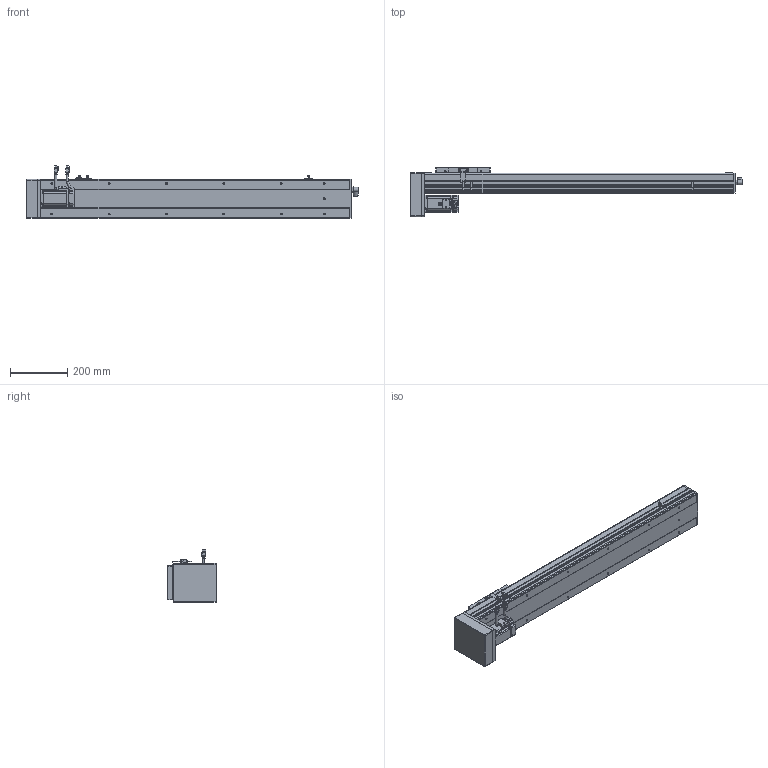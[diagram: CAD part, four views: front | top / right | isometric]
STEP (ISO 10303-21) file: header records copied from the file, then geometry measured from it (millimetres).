
FILE_DESCRIPTION(/* description */ ('STEP AP214'),/* implementation_level */ '2;1');
FILE_NAME(/* name */ 'PSC140-L05-S800-BM-P40-C1-N(0-P)',/* time_stamp */ '2022-06-13T03:21:20+02:00',/* author */ ('License CC BY-ND 4.0'),/* organization */ ('CADENAS'),/* preprocessor_version */ 'ST-DEVELOPER v18.102',/* originating_system */ 'PARTsolutions',/* authorisation */ ' ');
FILE_SCHEMA (('AUTOMOTIVE_DESIGN {1 0 10303 214 3 1 1}'));
Length unit declared in the file: millimetre
Products named in the file (11): PSC140-L05-S800-BM-P40-C1-N(0-P); P40-s2; P40-c2; P40-s1; P40-c1; P40-p1; PSC140-BM-body2; PSC140-sensor; PSC140-BM-SLIDER; PSC140-S800-BM-P40-C1-P_BODY1; PSC140-L05-S800-BM-P40-C1-N(0-P)_dummy
Assembly tree (12 placements, depth 2):
  PSC140-L05-S800-BM-P40-C1-N(0-P)
    P40-s2
    P40-c2
    P40-s1
    P40-c1
    P40-p1
    PSC140-BM-body2
    PSC140-sensor  x3
    PSC140-BM-SLIDER
    PSC140-S800-BM-P40-C1-P_BODY1
    PSC140-L05-S800-BM-P40-C1-N(0-P)_dummy
Bounding box: 1158 x 171.5 x 182.48 mm (x, y, z)
Volume: 12083718.6 mm3; surface area: 706061.9 mm2
Topology: 11 solids, 11 shells, 1238 faces, 3195 edges, 2114 vertices
Faces by surface type: plane 862, cylinder 317, cone 40, torus 19
Full cylindrical faces by diameter (mm): 1 x8, 2.6 x10, 2.8 x3, 3.3 x8, 4.5 x12, 4.6 x3, 4.917 x16, 5 x4, 5.5 x8, 6 x11, 7 x10, 9 x2, 10 x1, 11 x1, 12 x1, 13.74 x1, 14 x1, 16.4 x2, 16.5 x1, 36 x1, 50 x2
Entity records: 34272 total; most frequent: CARTESIAN_POINT 5984, DIRECTION 5765, ORIENTED_EDGE 5562, EDGE_CURVE 2781, LINE 2105, VECTOR 2105, VERTEX_POINT 1934, AXIS2_PLACEMENT_3D 1830
